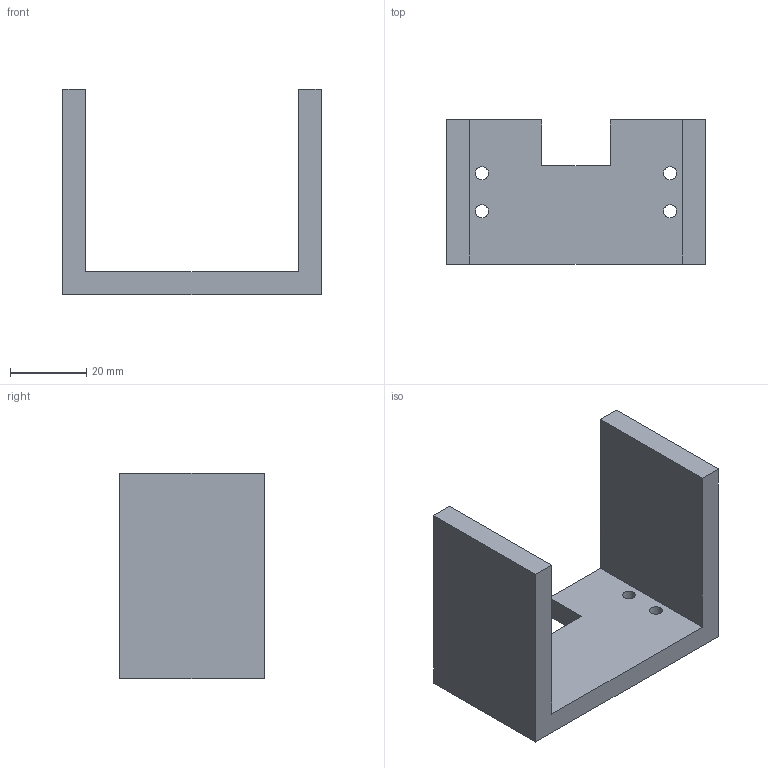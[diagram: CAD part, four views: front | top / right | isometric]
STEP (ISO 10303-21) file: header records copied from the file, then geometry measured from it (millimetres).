
FILE_DESCRIPTION(('Open CASCADE Model'),'2;1');
FILE_NAME('Open CASCADE Shape Model','2026-09-10T23:36:49',('Author'),( 'Open CASCADE'),'Open CASCADE STEP processor 7.9','Open CASCADE 7.9' ,'Unknown');
FILE_SCHEMA(('AUTOMOTIVE_DESIGN { 1 0 10303 214 1 1 1 1 }'));
Length unit declared in the file: millimetre
Products named in the file (1): Open CASCADE STEP translator 7.9 9
Bounding box: 68 x 38 x 54 mm (x, y, z)
Volume: 35878.1 mm3; surface area: 14783.7 mm2
Topology: 1 solids, 1 shells, 18 faces, 48 edges, 32 vertices
Faces by surface type: plane 14, cylinder 4
Full cylindrical faces by diameter (mm): 3.4 x4
Entity records: 1200 total; most frequent: CARTESIAN_POINT 205, DIRECTION 180, LINE 118, VECTOR 118, ORIENTED_EDGE 96, PCURVE 96, DEFINITIONAL_REPRESENTATION 96, EDGE_CURVE 48
